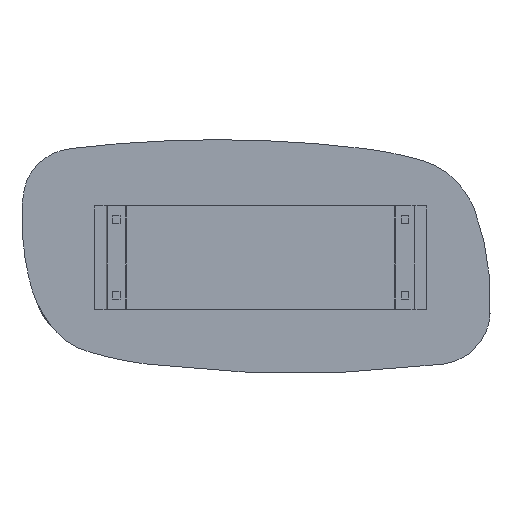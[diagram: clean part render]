
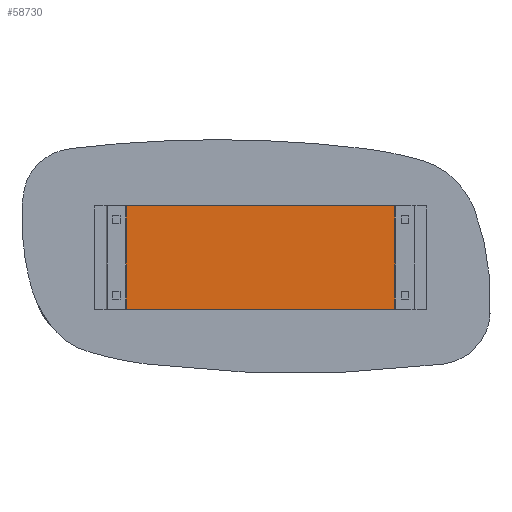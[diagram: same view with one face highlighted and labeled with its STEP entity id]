
A CAD part, top view. The second image highlights one B-rep face of the part: STEP entity #58730.
In plain terms, the highlighted planar face has unit normal (0, 0, 1) as drawn and (0, 0, -1) by its records, which use the part's own axes.
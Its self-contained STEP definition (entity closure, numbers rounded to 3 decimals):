
#22 = LINE ( 'NONE', #618, #29277 ) ;
#618 = CARTESIAN_POINT ( 'NONE',  ( 517., 200., 0. ) ) ;
#853 = LINE ( 'NONE', #47017, #3891 ) ;
#862 = CARTESIAN_POINT ( 'NONE',  ( 517., 160., 0. ) ) ;
#1313 = LINE ( 'NONE', #21511, #31283 ) ;
#3891 = VECTOR ( 'NONE', #34072, 1000. ) ;
#5847 = CARTESIAN_POINT ( 'NONE',  ( -517., 200., 0. ) ) ;
#5906 = VERTEX_POINT ( 'NONE', #43286 ) ;
#6446 = DIRECTION ( 'NONE',  ( 0., -1., 0. ) ) ;
#6502 = ORIENTED_EDGE ( 'NONE', *, *, #44038, .F. ) ;
#6779 = LINE ( 'NONE', #30155, #40249 ) ;
#7222 = CARTESIAN_POINT ( 'NONE',  ( -517., -200., 0. ) ) ;
#7385 = LINE ( 'NONE', #41213, #13822 ) ;
#8012 = VERTEX_POINT ( 'NONE', #17408 ) ;
#8732 = VECTOR ( 'NONE', #51844, 1000. ) ;
#8933 = ORIENTED_EDGE ( 'NONE', *, *, #40347, .F. ) ;
#9504 = CARTESIAN_POINT ( 'NONE',  ( -517., 200., 0. ) ) ;
#12000 = DIRECTION ( 'NONE',  ( 0., -1., 0. ) ) ;
#12135 = DIRECTION ( 'NONE',  ( 0., 1., 0. ) ) ;
#13244 = EDGE_CURVE ( 'NONE', #26398, #38197, #22, .T. ) ;
#13558 = VECTOR ( 'NONE', #6446, 1000. ) ;
#13822 = VECTOR ( 'NONE', #26152, 1000. ) ;
#14788 = EDGE_CURVE ( 'NONE', #5906, #25657, #57520, .T. ) ;
#15900 = ORIENTED_EDGE ( 'NONE', *, *, #34654, .T. ) ;
#16016 = CARTESIAN_POINT ( 'NONE',  ( -517., 200., 0. ) ) ;
#17148 = DIRECTION ( 'NONE',  ( -1., 0., 0. ) ) ;
#17408 = CARTESIAN_POINT ( 'NONE',  ( 517., -160., 0. ) ) ;
#18469 = ORIENTED_EDGE ( 'NONE', *, *, #37336, .F. ) ;
#18657 = LINE ( 'NONE', #56192, #39186 ) ;
#18737 = DIRECTION ( 'NONE',  ( 0., -1., 0. ) ) ;
#19437 = VERTEX_POINT ( 'NONE', #27877 ) ;
#19661 = EDGE_CURVE ( 'NONE', #42837, #42382, #41722, .T. ) ;
#21511 = CARTESIAN_POINT ( 'NONE',  ( -517., 200., 0. ) ) ;
#22431 = LINE ( 'NONE', #41513, #29359 ) ;
#23552 = VERTEX_POINT ( 'NONE', #41026 ) ;
#23563 = CARTESIAN_POINT ( 'NONE',  ( -518., -200., 0. ) ) ;
#23857 = ORIENTED_EDGE ( 'NONE', *, *, #28647, .T. ) ;
#24648 = DIRECTION ( 'NONE',  ( 0., 1., 0. ) ) ;
#25053 = VERTEX_POINT ( 'NONE', #33023 ) ;
#25657 = VERTEX_POINT ( 'NONE', #25948 ) ;
#25948 = CARTESIAN_POINT ( 'NONE',  ( -517., -130., 0. ) ) ;
#26152 = DIRECTION ( 'NONE',  ( 1., 0., 0. ) ) ;
#26375 = PLANE ( 'NONE',  #53115 ) ;
#26398 = VERTEX_POINT ( 'NONE', #37305 ) ;
#27877 = CARTESIAN_POINT ( 'NONE',  ( 517., -130., 0. ) ) ;
#27969 = DIRECTION ( 'NONE',  ( 0., 1., 0. ) ) ;
#28647 = EDGE_CURVE ( 'NONE', #23552, #19437, #853, .T. ) ;
#29277 = VECTOR ( 'NONE', #33240, 1000. ) ;
#29359 = VECTOR ( 'NONE', #27969, 1000. ) ;
#30155 = CARTESIAN_POINT ( 'NONE',  ( 517., 200., 0. ) ) ;
#31283 = VECTOR ( 'NONE', #50115, 1000. ) ;
#31339 = VECTOR ( 'NONE', #18737, 1000. ) ;
#31601 = FACE_OUTER_BOUND ( 'NONE', #59765, .T. ) ;
#33023 = CARTESIAN_POINT ( 'NONE',  ( -517., -160., 0. ) ) ;
#33103 = CARTESIAN_POINT ( 'NONE',  ( 517., -200., 0. ) ) ;
#33240 = DIRECTION ( 'NONE',  ( 0., -1., 0. ) ) ;
#34072 = DIRECTION ( 'NONE',  ( 0., -1., 0. ) ) ;
#34466 = ORIENTED_EDGE ( 'NONE', *, *, #19661, .F. ) ;
#34654 = EDGE_CURVE ( 'NONE', #5906, #35318, #1313, .T. ) ;
#35318 = VERTEX_POINT ( 'NONE', #52987 ) ;
#35514 = LINE ( 'NONE', #44138, #56904 ) ;
#36905 = EDGE_CURVE ( 'NONE', #8012, #19437, #22431, .T. ) ;
#37305 = CARTESIAN_POINT ( 'NONE',  ( 517., 200., 0. ) ) ;
#37336 = EDGE_CURVE ( 'NONE', #54624, #35318, #46728, .T. ) ;
#38130 = ORIENTED_EDGE ( 'NONE', *, *, #13244, .T. ) ;
#38197 = VERTEX_POINT ( 'NONE', #862 ) ;
#39186 = VECTOR ( 'NONE', #60803, 1000. ) ;
#40249 = VECTOR ( 'NONE', #12000, 1000. ) ;
#40347 = EDGE_CURVE ( 'NONE', #25053, #42837, #18657, .T. ) ;
#41026 = CARTESIAN_POINT ( 'NONE',  ( 517., 130., 0. ) ) ;
#41213 = CARTESIAN_POINT ( 'NONE',  ( -518., 200., 0. ) ) ;
#41513 = CARTESIAN_POINT ( 'NONE',  ( 517., 200., 0. ) ) ;
#41722 = LINE ( 'NONE', #23563, #8732 ) ;
#42382 = VERTEX_POINT ( 'NONE', #33103 ) ;
#42837 = VERTEX_POINT ( 'NONE', #7222 ) ;
#43192 = ORIENTED_EDGE ( 'NONE', *, *, #36905, .F. ) ;
#43286 = CARTESIAN_POINT ( 'NONE',  ( -517., 130., 0. ) ) ;
#44038 = EDGE_CURVE ( 'NONE', #23552, #38197, #35514, .T. ) ;
#44138 = CARTESIAN_POINT ( 'NONE',  ( 517., 200., 0. ) ) ;
#44718 = ORIENTED_EDGE ( 'NONE', *, *, #56485, .T. ) ;
#45136 = DIRECTION ( 'NONE',  ( 0., 0., -1. ) ) ;
#46689 = ORIENTED_EDGE ( 'NONE', *, *, #14788, .F. ) ;
#46728 = LINE ( 'NONE', #9504, #31339 ) ;
#47017 = CARTESIAN_POINT ( 'NONE',  ( 517., 200., 0. ) ) ;
#47393 = EDGE_CURVE ( 'NONE', #8012, #42382, #6779, .T. ) ;
#47406 = EDGE_CURVE ( 'NONE', #25053, #25657, #58168, .T. ) ;
#47893 = ORIENTED_EDGE ( 'NONE', *, *, #47406, .T. ) ;
#49223 = CARTESIAN_POINT ( 'NONE',  ( -517., 200., 0. ) ) ;
#50115 = DIRECTION ( 'NONE',  ( 0., 1., 0. ) ) ;
#50356 = CARTESIAN_POINT ( 'NONE',  ( -518., 200., 0. ) ) ;
#51844 = DIRECTION ( 'NONE',  ( 1., 0., 0. ) ) ;
#52064 = VECTOR ( 'NONE', #24648, 1000. ) ;
#52987 = CARTESIAN_POINT ( 'NONE',  ( -517., 160., 0. ) ) ;
#53115 = AXIS2_PLACEMENT_3D ( 'NONE', #50356, #45136, #17148 ) ;
#54624 = VERTEX_POINT ( 'NONE', #16016 ) ;
#56192 = CARTESIAN_POINT ( 'NONE',  ( -517., 200., 0. ) ) ;
#56485 = EDGE_CURVE ( 'NONE', #54624, #26398, #7385, .T. ) ;
#56904 = VECTOR ( 'NONE', #12135, 1000. ) ;
#57367 = ORIENTED_EDGE ( 'NONE', *, *, #47393, .T. ) ;
#57520 = LINE ( 'NONE', #5847, #13558 ) ;
#58168 = LINE ( 'NONE', #49223, #52064 ) ;
#58730 = ADVANCED_FACE ( 'NONE', ( #31601 ), #26375, .T. ) ;
#59765 = EDGE_LOOP ( 'NONE', ( #34466, #8933, #47893, #46689, #15900, #18469, #44718, #38130, #6502, #23857, #43192, #57367 ) ) ;
#60803 = DIRECTION ( 'NONE',  ( 0., -1., 0. ) ) ;
